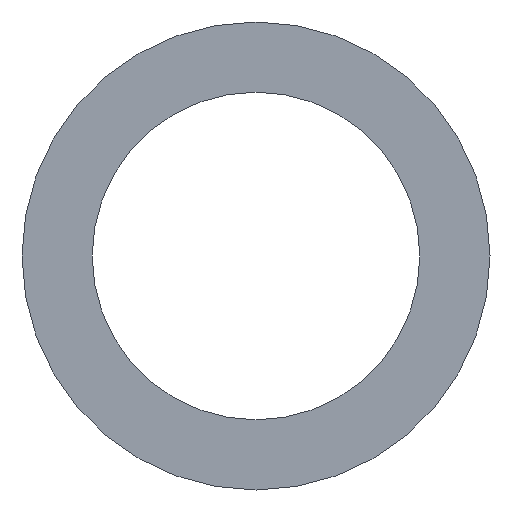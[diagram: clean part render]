
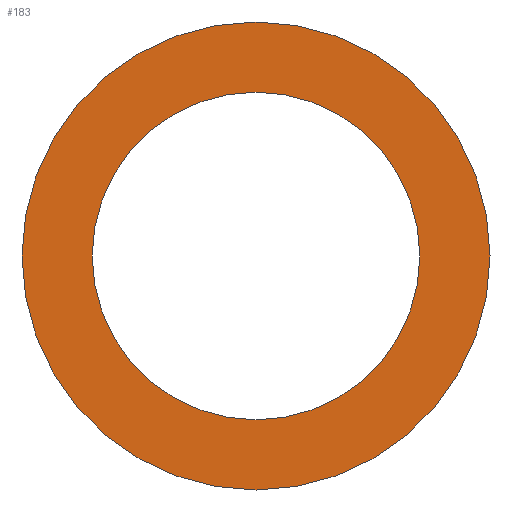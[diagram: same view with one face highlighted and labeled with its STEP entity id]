
A CAD part, left-side view. The second image highlights one B-rep face of the part: STEP entity #183.
In plain terms, the highlighted planar face has unit normal (-1, 0, 0).
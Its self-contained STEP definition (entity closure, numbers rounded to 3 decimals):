
#22 = VERTEX_POINT('',#23);
#23 = CARTESIAN_POINT('',(76.944,-12.5,12.));
#32 = CYLINDRICAL_SURFACE('',#33,3.5);
#33 = AXIS2_PLACEMENT_3D('',#34,#35,#36);
#34 = CARTESIAN_POINT('',(76.944,-16.,12.));
#35 = DIRECTION('',(-1.,-0.,-0.));
#36 = DIRECTION('',(0.,1.,0.));
#79 = EDGE_CURVE('',#22,#22,#80,.T.);
#80 = SURFACE_CURVE('',#81,(#86,#93),.PCURVE_S1.);
#81 = CIRCLE('',#82,3.5);
#82 = AXIS2_PLACEMENT_3D('',#83,#84,#85);
#83 = CARTESIAN_POINT('',(76.944,-16.,12.));
#84 = DIRECTION('',(1.,0.,0.));
#85 = DIRECTION('',(0.,1.,0.));
#86 = PCURVE('',#32,#87);
#87 = DEFINITIONAL_REPRESENTATION('',(#88),#92);
#88 = LINE('',#89,#90);
#89 = CARTESIAN_POINT('',(-0.,0.));
#90 = VECTOR('',#91,1.);
#91 = DIRECTION('',(-1.,0.));
#92 = ( GEOMETRIC_REPRESENTATION_CONTEXT(2) 
PARAMETRIC_REPRESENTATION_CONTEXT() REPRESENTATION_CONTEXT('2D SPACE',''
  ) );
#93 = PCURVE('',#94,#99);
#94 = PLANE('',#95);
#95 = AXIS2_PLACEMENT_3D('',#96,#97,#98);
#96 = CARTESIAN_POINT('',(76.944,-16.,12.));
#97 = DIRECTION('',(1.,0.,0.));
#98 = DIRECTION('',(-0.,0.,1.));
#99 = DEFINITIONAL_REPRESENTATION('',(#100),#104);
#100 = CIRCLE('',#101,3.5);
#101 = AXIS2_PLACEMENT_2D('',#102,#103);
#102 = CARTESIAN_POINT('',(0.,0.));
#103 = DIRECTION('',(0.,-1.));
#104 = ( GEOMETRIC_REPRESENTATION_CONTEXT(2) 
PARAMETRIC_REPRESENTATION_CONTEXT() REPRESENTATION_CONTEXT('2D SPACE',''
  ) );
#110 = VERTEX_POINT('',#111);
#111 = CARTESIAN_POINT('',(76.944,-13.55,12.));
#120 = CYLINDRICAL_SURFACE('',#121,2.45);
#121 = AXIS2_PLACEMENT_3D('',#122,#123,#124);
#122 = CARTESIAN_POINT('',(76.944,-16.,12.));
#123 = DIRECTION('',(-1.,-0.,-0.));
#124 = DIRECTION('',(0.,1.,0.));
#162 = EDGE_CURVE('',#110,#110,#163,.T.);
#163 = SURFACE_CURVE('',#164,(#169,#176),.PCURVE_S1.);
#164 = CIRCLE('',#165,2.45);
#165 = AXIS2_PLACEMENT_3D('',#166,#167,#168);
#166 = CARTESIAN_POINT('',(76.944,-16.,12.));
#167 = DIRECTION('',(1.,0.,0.));
#168 = DIRECTION('',(0.,1.,0.));
#169 = PCURVE('',#120,#170);
#170 = DEFINITIONAL_REPRESENTATION('',(#171),#175);
#171 = LINE('',#172,#173);
#172 = CARTESIAN_POINT('',(-0.,0.));
#173 = VECTOR('',#174,1.);
#174 = DIRECTION('',(-1.,0.));
#175 = ( GEOMETRIC_REPRESENTATION_CONTEXT(2) 
PARAMETRIC_REPRESENTATION_CONTEXT() REPRESENTATION_CONTEXT('2D SPACE',''
  ) );
#176 = PCURVE('',#94,#177);
#177 = DEFINITIONAL_REPRESENTATION('',(#178),#182);
#178 = CIRCLE('',#179,2.45);
#179 = AXIS2_PLACEMENT_2D('',#180,#181);
#180 = CARTESIAN_POINT('',(0.,0.));
#181 = DIRECTION('',(0.,-1.));
#182 = ( GEOMETRIC_REPRESENTATION_CONTEXT(2) 
PARAMETRIC_REPRESENTATION_CONTEXT() REPRESENTATION_CONTEXT('2D SPACE',''
  ) );
#183 = ADVANCED_FACE('',(#184,#187),#94,.F.);
#184 = FACE_BOUND('',#185,.F.);
#185 = EDGE_LOOP('',(#186));
#186 = ORIENTED_EDGE('',*,*,#79,.T.);
#187 = FACE_BOUND('',#188,.F.);
#188 = EDGE_LOOP('',(#189));
#189 = ORIENTED_EDGE('',*,*,#162,.F.);
